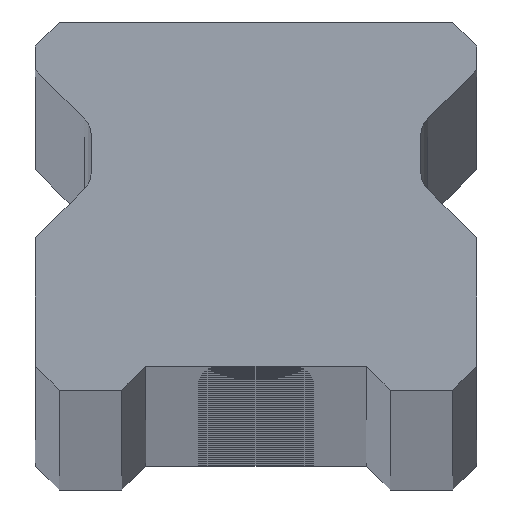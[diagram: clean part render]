
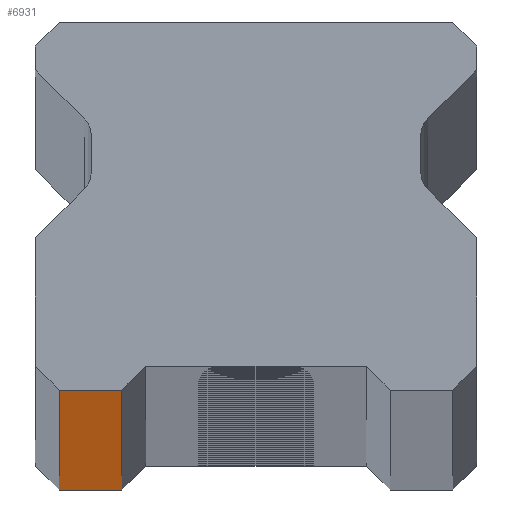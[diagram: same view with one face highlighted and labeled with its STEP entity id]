
A CAD part, top view. The second image highlights one B-rep face of the part: STEP entity #6931.
In plain terms, the highlighted planar face has unit normal (0, -1, 0).
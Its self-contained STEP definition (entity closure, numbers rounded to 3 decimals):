
#634 = DIRECTION ( 'NONE',  ( 0., 0., 1. ) ) ;
#921 = DIRECTION ( 'NONE',  ( 1., 0., 0. ) ) ;
#1078 = LINE ( 'NONE', #7820, #6925 ) ;
#1177 = EDGE_CURVE ( 'NONE', #2034, #2787, #1335, .T. ) ;
#1335 = LINE ( 'NONE', #7079, #6098 ) ;
#2034 = VERTEX_POINT ( 'NONE', #2873 ) ;
#2226 = AXIS2_PLACEMENT_3D ( 'NONE', #10060, #10026, #3014 ) ;
#2787 = VERTEX_POINT ( 'NONE', #4067 ) ;
#2873 = CARTESIAN_POINT ( 'NONE',  ( -10.25, 0., -1490. ) ) ;
#3014 = DIRECTION ( 'NONE',  ( -1., 0., 0. ) ) ;
#3485 = VERTEX_POINT ( 'NONE', #7555 ) ;
#4013 = DIRECTION ( 'NONE',  ( 0., 0., -1. ) ) ;
#4067 = CARTESIAN_POINT ( 'NONE',  ( -7., 0., -1490. ) ) ;
#4255 = ORIENTED_EDGE ( 'NONE', *, *, #1177, .T. ) ;
#4446 = ORIENTED_EDGE ( 'NONE', *, *, #7833, .F. ) ;
#4512 = EDGE_CURVE ( 'NONE', #6641, #2034, #7589, .T. ) ;
#4887 = CARTESIAN_POINT ( 'NONE',  ( -10.25, 0., 1490. ) ) ;
#5846 = VECTOR ( 'NONE', #634, 1000. ) ;
#6098 = VECTOR ( 'NONE', #921, 1000. ) ;
#6298 = ORIENTED_EDGE ( 'NONE', *, *, #4512, .T. ) ;
#6641 = VERTEX_POINT ( 'NONE', #4887 ) ;
#6887 = ORIENTED_EDGE ( 'NONE', *, *, #8118, .T. ) ;
#6925 = VECTOR ( 'NONE', #9470, 1000. ) ;
#6931 = ADVANCED_FACE ( 'NONE', ( #8379 ), #9225, .F. ) ;
#7079 = CARTESIAN_POINT ( 'NONE',  ( 11.5, 0., -1490. ) ) ;
#7222 = VECTOR ( 'NONE', #4013, 1000. ) ;
#7555 = CARTESIAN_POINT ( 'NONE',  ( -7., 0., 1490. ) ) ;
#7589 = LINE ( 'NONE', #7874, #7222 ) ;
#7820 = CARTESIAN_POINT ( 'NONE',  ( 11.5, 0., 1490. ) ) ;
#7833 = EDGE_CURVE ( 'NONE', #6641, #3485, #1078, .T. ) ;
#7874 = CARTESIAN_POINT ( 'NONE',  ( -10.25, 0., 1490. ) ) ;
#8118 = EDGE_CURVE ( 'NONE', #2787, #3485, #10067, .T. ) ;
#8379 = FACE_OUTER_BOUND ( 'NONE', #9600, .T. ) ;
#9225 = PLANE ( 'NONE',  #2226 ) ;
#9470 = DIRECTION ( 'NONE',  ( 1., 0., 0. ) ) ;
#9600 = EDGE_LOOP ( 'NONE', ( #4255, #6887, #4446, #6298 ) ) ;
#9845 = CARTESIAN_POINT ( 'NONE',  ( -7., 0., -1490. ) ) ;
#10026 = DIRECTION ( 'NONE',  ( 0., 1., 0. ) ) ;
#10060 = CARTESIAN_POINT ( 'NONE',  ( 11.5, 0., 1490. ) ) ;
#10067 = LINE ( 'NONE', #9845, #5846 ) ;
